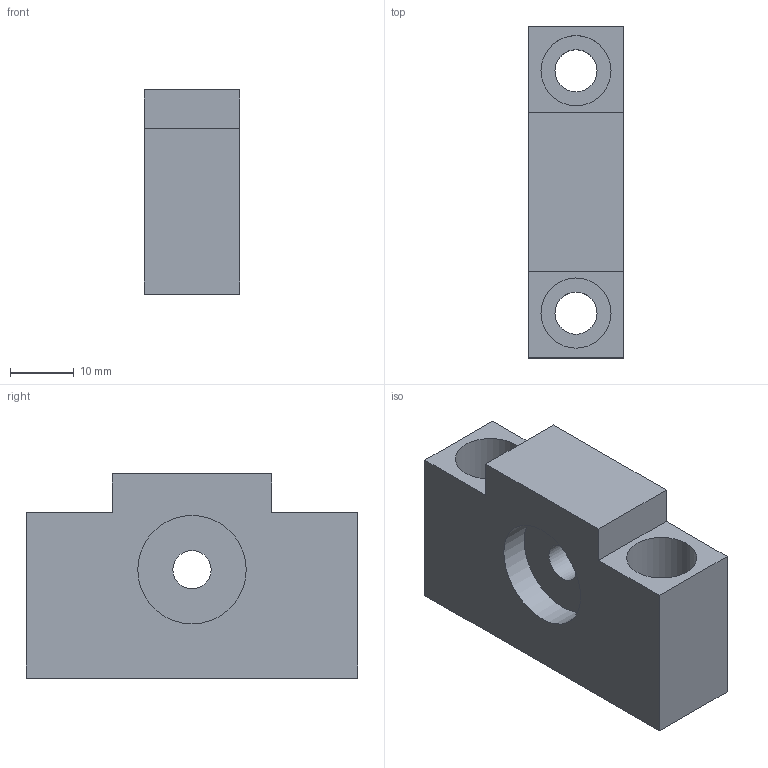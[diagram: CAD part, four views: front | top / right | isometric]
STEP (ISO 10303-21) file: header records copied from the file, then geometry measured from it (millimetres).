
FILE_DESCRIPTION((''),'2;1');
FILE_NAME('D:\製品 (図面)\カタログ用3D\ネジ関連\STEP形式\FH\FH8.stp','2010-06-01T16:43:08',('Tsuchiya'),(''),'Autodesk Inventor 10','Autodesk Inventor 10','');
FILE_SCHEMA(('AUTOMOTIVE_DESIGN { 1 0 10303 214 1 1 1 1 }'));
Length unit declared in the file: millimetre
Products named in the file (1): FH8
Bounding box: 15 x 52 x 32 mm (x, y, z)
Volume: 17322.6 mm3; surface area: 7278.7 mm2
Topology: 1 solids, 1 shells, 21 faces, 45 edges, 30 vertices
Faces by surface type: plane 12, bspline 6, cylinder 3
Full cylindrical faces by diameter (mm): 6 x1, 17 x2
Entity records: 625 total; most frequent: CARTESIAN_POINT 164, DIRECTION 84, ORIENTED_EDGE 76, EDGE_CURVE 38, EDGE_LOOP 38, AXIS2_PLACEMENT_3D 30, VERTEX_POINT 30, VECTOR 24
